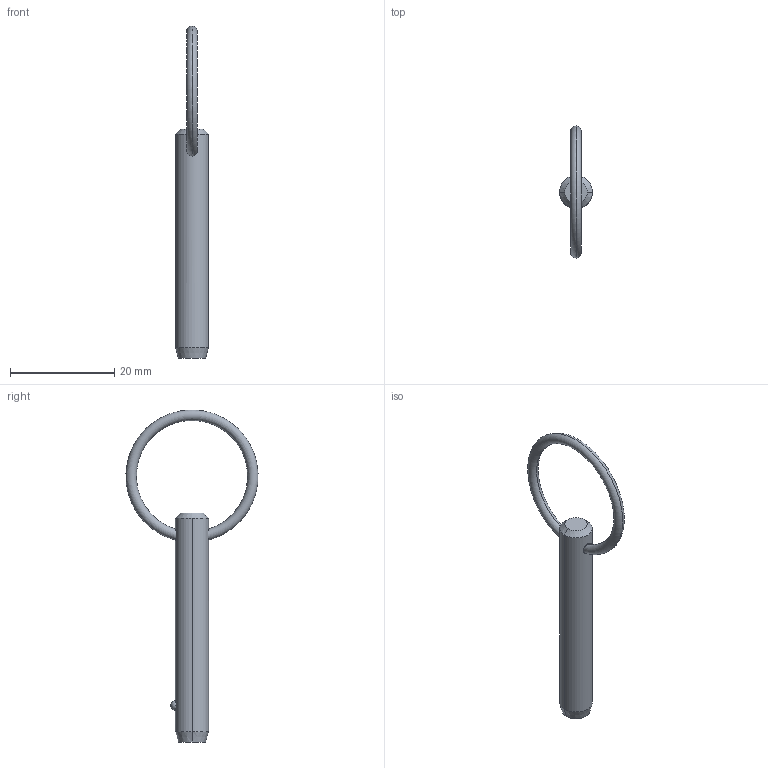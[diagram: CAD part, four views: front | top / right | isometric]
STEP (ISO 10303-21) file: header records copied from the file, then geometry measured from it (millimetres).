
FILE_DESCRIPTION (( 'STEP AP203' ), '1' );
FILE_NAME ('P1250.025-120.step', '2019-07-29T19:40:12', ( '' ), ( '' ), 'SwSTEP 2.0', 'SolidWorks 2017', '' );
FILE_SCHEMA (( 'CONFIG_CONTROL_DESIGN' ));
Length unit declared in the file: millimetre
Products named in the file (1): P1250.025-120
Bounding box: 6.35 x 25.38 x 63.82 mm (x, y, z)
Volume: 1587.1 mm3; surface area: 1335.1 mm2
Topology: 1 solids, 1 shells, 12 faces, 28 edges, 17 vertices
Faces by surface type: cone 4, torus 2, sphere 2, cylinder 2, plane 2
Entity records: 481 total; most frequent: CARTESIAN_POINT 148, DIRECTION 56, ORIENTED_EDGE 48, AXIS2_PLACEMENT_3D 25, EDGE_CURVE 24, VERTEX_POINT 15, EDGE_LOOP 15, FACE_OUTER_BOUND 12
